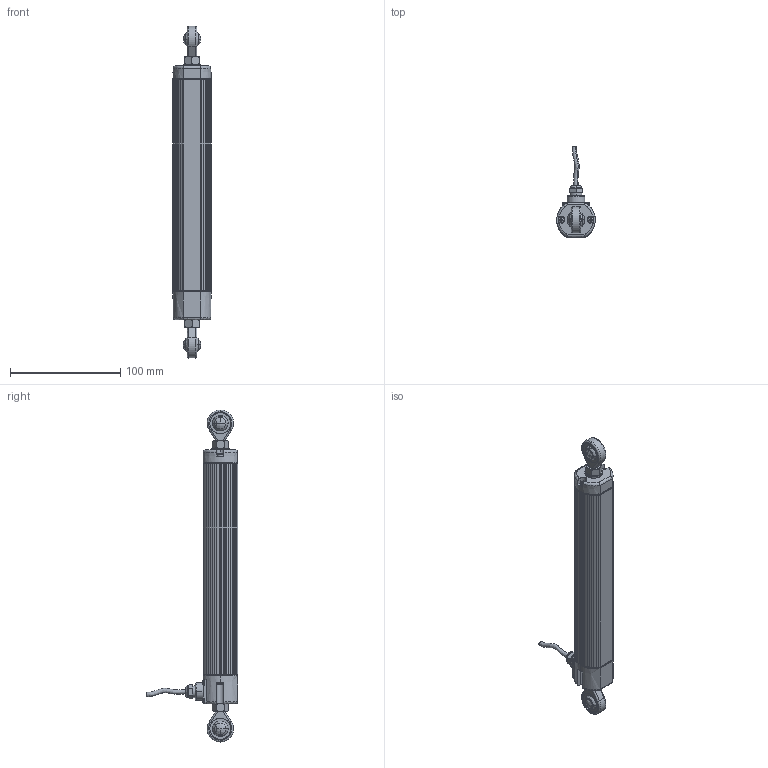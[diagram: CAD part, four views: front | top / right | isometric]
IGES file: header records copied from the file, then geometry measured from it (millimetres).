
Start section: SolidWorks IGES file using analytic representation for surfaces
Global section: file name: \\srv4gefran\dir-cat\Disegni Catalogo\Posizione\PCV2\PC-M-0100\3D\Solidworks 2016\PC-F-0100\PC-F-0100.IGS; native system: SolidWorks 2015; preprocessor: SolidWorks 2015; author: Loda-w1; date: 160701.101443; units: millimetre
Bounding box: 35 x 82.8 x 301.5 mm (x, y, z)
Surface area: 60653.4 mm2 (no closed solid volume)
Topology: 0 solids, 0 shells, 2150 faces, 38780 edges, 49746 vertices
Faces by surface type: revolution 1732, bspline 418
